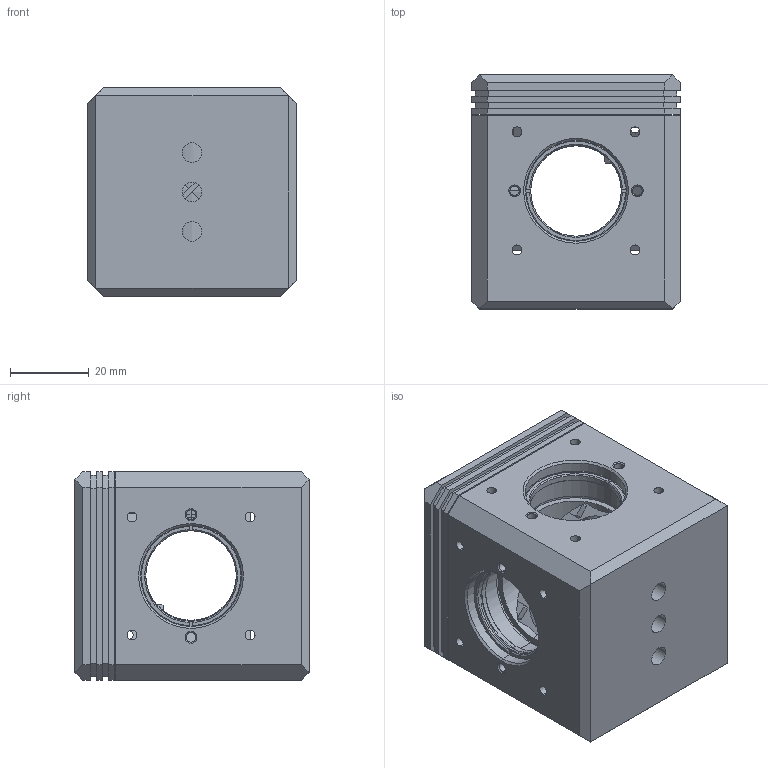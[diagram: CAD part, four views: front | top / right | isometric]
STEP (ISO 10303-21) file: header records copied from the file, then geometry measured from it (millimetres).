
FILE_DESCRIPTION (( 'STEP AP203' ), '1' );
FILE_NAME ('CSC1Q-MR.STEP', '2024-03-28T03:20:27', ( '' ), ( '' ), 'SwSTEP 2.0', 'SolidWorks 2021', '' );
FILE_SCHEMA (( 'CONFIG_CONTROL_DESIGN' ));
Length unit declared in the file: millimetre
Products named in the file (1): CSC1Q-MR
Bounding box: 53 x 59.5 x 53 mm (x, y, z)
Surface area: 27668.2 mm2 (no closed solid volume)
Topology: 0 solids, 22 shells, 353 faces, 1523 edges, 1181 vertices
Faces by surface type: plane 183, cylinder 96, cone 66, bspline 8
Entity records: 18476 total; most frequent: CARTESIAN_POINT 6266, DIRECTION 2390, ORIENTED_EDGE 2220, EDGE_CURVE 1523, VERTEX_POINT 1181, VECTOR 996, LINE 996, AXIS2_PLACEMENT_3D 697
